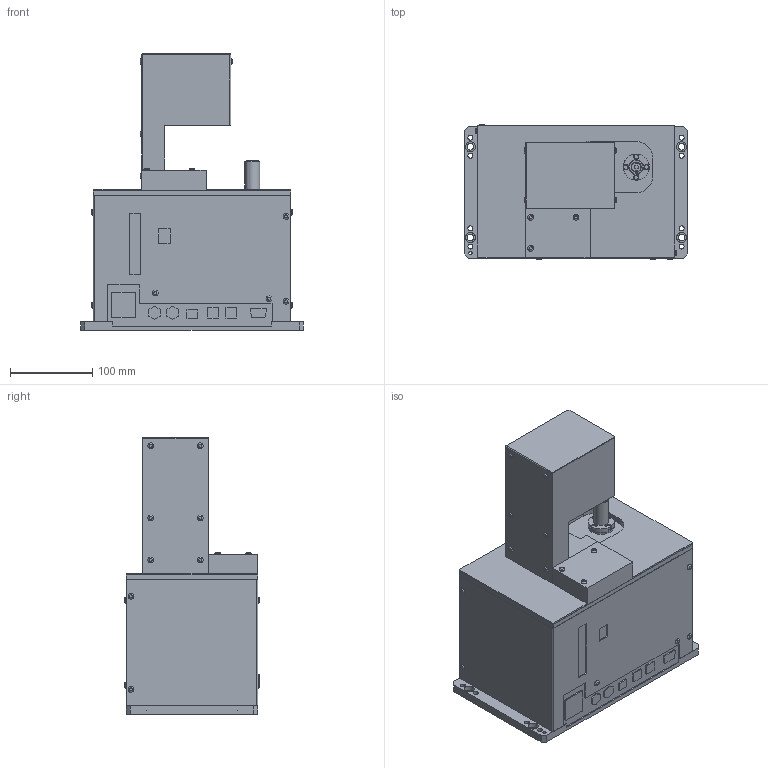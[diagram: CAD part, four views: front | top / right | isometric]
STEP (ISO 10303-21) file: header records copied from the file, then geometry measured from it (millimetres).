
FILE_DESCRIPTION(/* description */ (''),/* implementation_level */ '2;1');
FILE_NAME(/* name */ 'C:\Users\h-mitaka\Desktop\\X2\FF8EFF70FF91FF8DFF9FFF70FF7CFF9E7528\X0\\3D-12141\SAL3262HV-12141.stp',/* time_stamp */ '2016-11-25T14:17:31+09:00',/* author */ ('h-mitaka'),/* organization */ (''),/* preprocessor_version */ 'ST-DEVELOPER v16.1',/* originating_system */ 'Autodesk Inventor 2016',/* authorisation */ '');
FILE_SCHEMA (('AUTOMOTIVE_DESIGN { 1 0 10303 214 3 1 1 }'));
Length unit declared in the file: millimetre
Products named in the file (3): SAL3262HV-205; SUCTION_PAD-18-L1; SAL3262HV-12141
Assembly tree (2 placements, depth 2):
  SAL3262HV-12141
    SAL3262HV-205
    SUCTION_PAD-18-L1
Bounding box: 270 x 163.78 x 335 mm (x, y, z)
Volume: 7677552.1 mm3; surface area: 307040.4 mm2
Topology: 2 solids, 2 shells, 288 faces, 688 edges, 450 vertices
Faces by surface type: plane 179, cylinder 83, torus 26
Full cylindrical faces by diameter (mm): 4 x1, 5.99 x4, 6 x8, 6.9 x21, 8 x4, 11 x1, 12 x4, 18 x1, 31.48 x1, 31.5 x1, 40 x1
Entity records: 7992 total; most frequent: DIRECTION 1397, CARTESIAN_POINT 1338, ORIENTED_EDGE 1210, EDGE_CURVE 605, AXIS2_PLACEMENT_3D 499, VERTEX_POINT 440, EDGE_LOOP 433, LINE 399
